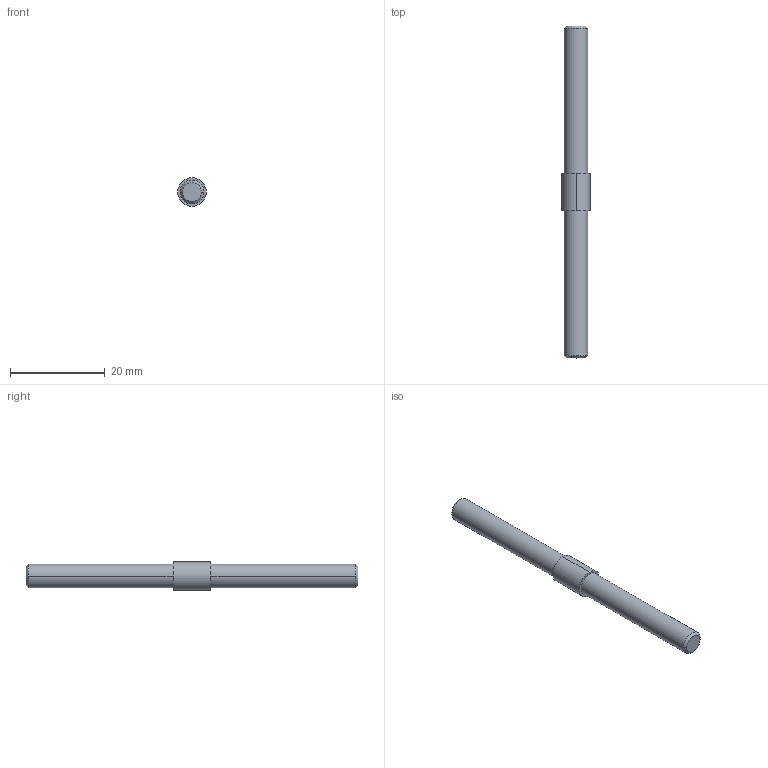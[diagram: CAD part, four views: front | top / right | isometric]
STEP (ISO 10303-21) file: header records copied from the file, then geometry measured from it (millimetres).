
FILE_DESCRIPTION (( 'STEP AP203' ), '1' );
FILE_NAME ('__.stp_Défaut_sldprt.STEP', '2024-11-30T15:38:20', ( '' ), ( '' ), 'SwSTEP 2.0', 'SolidWorks 2023', '' );
FILE_SCHEMA (( 'CONFIG_CONTROL_DESIGN' ));
Length unit declared in the file: millimetre
Products named in the file (1): __.stp_Défaut_sldprt
Bounding box: 6 x 70 x 6 mm (x, y, z)
Volume: 1439.9 mm3; surface area: 1171.4 mm2
Topology: 1 solids, 1 shells, 16 faces, 32 edges, 20 vertices
Faces by surface type: cone 6, cylinder 6, plane 4
Entity records: 501 total; most frequent: DIRECTION 86, CARTESIAN_POINT 69, ORIENTED_EDGE 64, AXIS2_PLACEMENT_3D 37, EDGE_CURVE 32, VERTEX_POINT 20, CIRCLE 20, EDGE_LOOP 18
